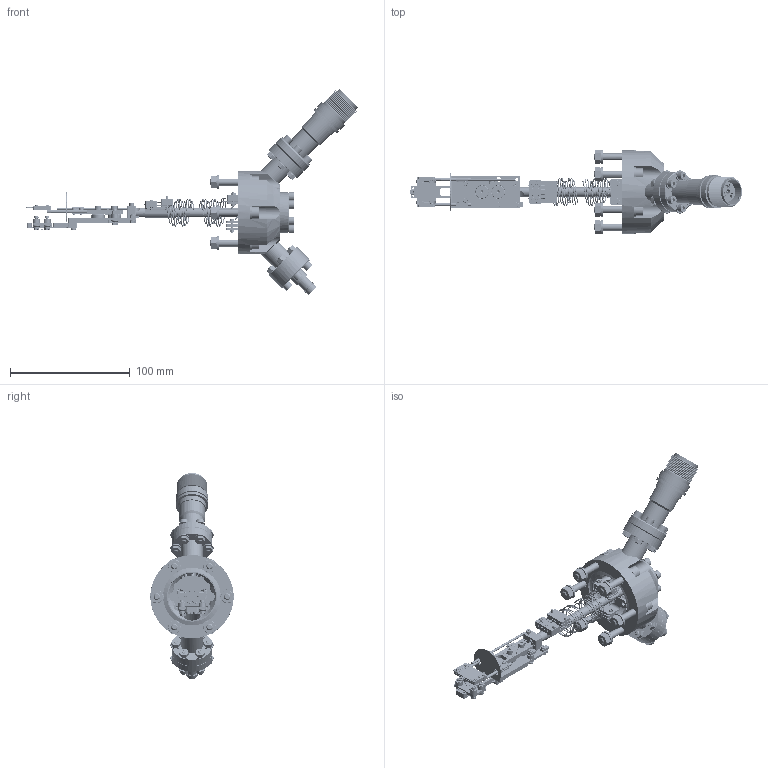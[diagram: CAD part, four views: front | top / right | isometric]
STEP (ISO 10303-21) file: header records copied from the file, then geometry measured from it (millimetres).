
FILE_DESCRIPTION(('Confidential','CAx-IF Rec.Pracs.--- Model Styling and Organization---1.2---2011-12-15','CAx-IF Rec.Pracs.--- Geometric and Assembly Validation Properties ---3.1---2011-10-19'),'2;1');
FILE_NAME('W:\KONSTRUKTION\PRODUCTS\HS\HSAS\HSASOM\HSASOM40\HSASOM40(EB)\HSASOM40(EB)_Rev_F.stp','2026-05-20T10:00:45+00:00',('none'),('Ferrovac AG'),'CATIA Version 5 Release 21 SP 6 (IN-10)','CATIA V5 STEP AP214 Edition 3','PROPERTY OF FERROVAC AG');
FILE_SCHEMA(('AUTOMOTIVE_DESIGN { 1 0 10303 214 3 1 1 1 }'));
Products named in the file (1): HSASOM40(EB)_Rev_F
Bounding box: 277.2 x 70.7 x 172.03 mm (x, y, z)
Volume: 167014.4 mm3; surface area: 106088.2 mm2
Topology: 2 solids, 49 shells, 6132 faces, 16622 edges, 10805 vertices
Faces by surface type: cylinder 2445, plane 1880, cone 832, torus 722, bspline 237, extrusion 16
Entity records: 224967 total; most frequent: CARTESIAN_POINT 80127, ORIENTED_EDGE 32986, DIRECTION 21925, EDGE_CURVE 16493, AXIS2_PLACEMENT_3D 11336, VERTEX_POINT 10805, EDGE_LOOP 6905, CIRCLE 6378
